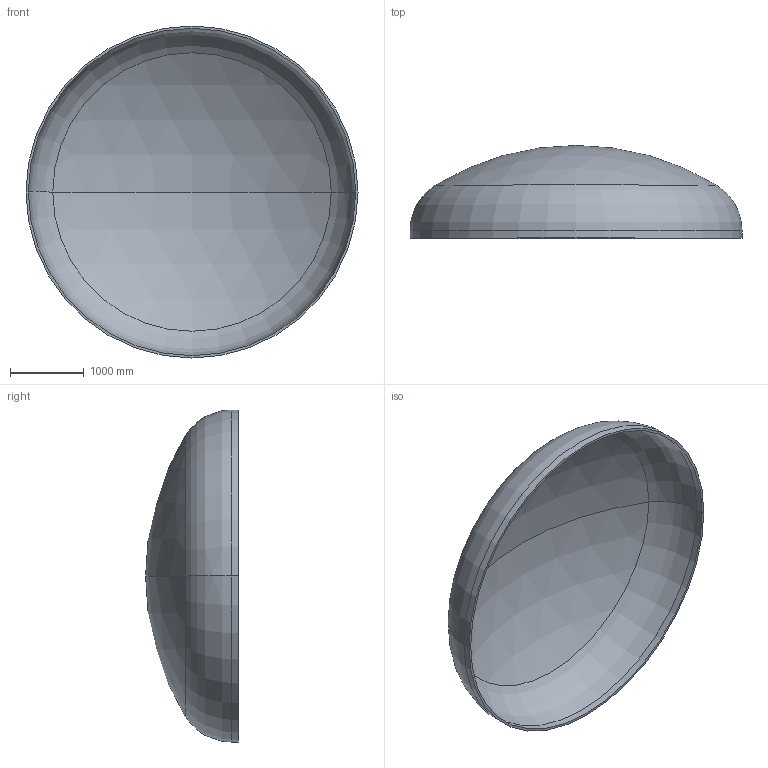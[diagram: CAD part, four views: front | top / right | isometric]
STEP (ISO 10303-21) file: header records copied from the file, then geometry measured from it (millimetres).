
FILE_DESCRIPTION (( 'STEP AP203' ), '1' );
FILE_NAME ('DIN 28013 Korbbogenform_-_Boden DIN 28013 - 4500 x 100 - I - s=32.step', '2016-07-01T23:18:06', ( '' ), ( '' ), 'SwSTEP 2.0', 'SolidWorks 2013', '' );
FILE_SCHEMA (( 'CONFIG_CONTROL_DESIGN' ));
Length unit declared in the file: millimetre
Products named in the file (1): DIN 28013 Korbbogenform_-_Boden DIN 28013 - 4500 x 100 - I - s=32
Bounding box: 4500 x 1258.24 x 4500 mm (x, y, z)
Volume: 743594605.2 mm3; surface area: 46925962.1 mm2
Topology: 1 solids, 1 shells, 13 faces, 24 edges, 14 vertices
Faces by surface type: torus 4, cylinder 4, sphere 4, plane 1
Entity records: 407 total; most frequent: DIRECTION 72, CARTESIAN_POINT 52, ORIENTED_EDGE 48, AXIS2_PLACEMENT_3D 34, EDGE_CURVE 24, CIRCLE 20, EDGE_LOOP 14, VERTEX_POINT 14
